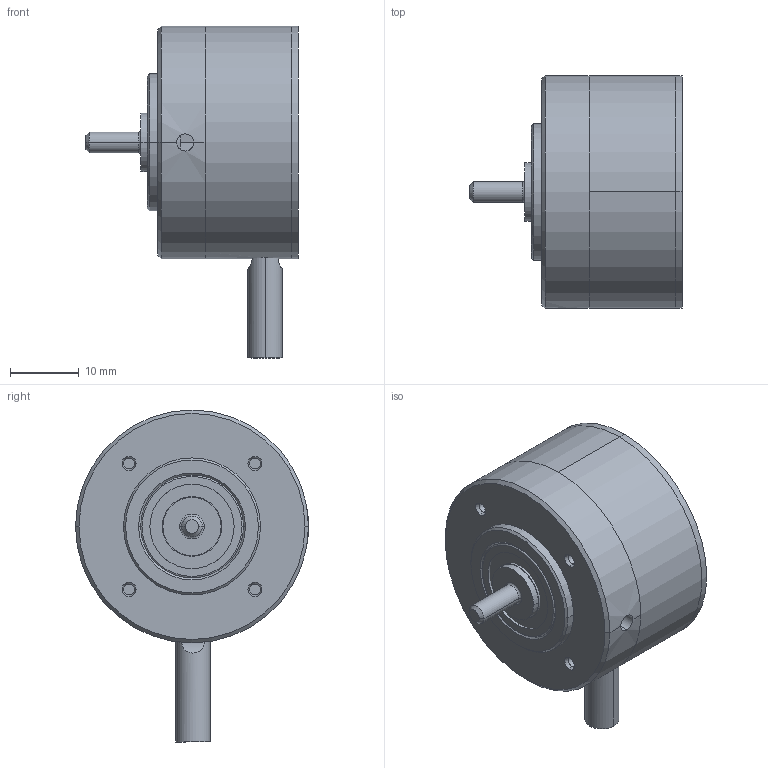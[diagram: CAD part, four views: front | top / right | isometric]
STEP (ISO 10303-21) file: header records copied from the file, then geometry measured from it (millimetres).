
FILE_DESCRIPTION (( 'STEP AP214' ), '1' );
FILE_NAME ('ﾋﾈﾐ-134.STEP', '2017-05-23T08:43:55', ( '' ), ( '' ), 'SwSTEP 2.0', 'SolidWorks 2013', '' );
FILE_SCHEMA (( 'AUTOMOTIVE_DESIGN' ));
Length unit declared in the file: millimetre
Products named in the file (1): ﾋﾈﾐ-134
Bounding box: 31 x 34 x 48.47 mm (x, y, z)
Surface area: 5559.1 mm2 (no closed solid volume)
Topology: 0 solids, 11 shells, 92 faces, 286 edges, 210 vertices
Faces by surface type: cylinder 38, plane 28, cone 22, torus 4
Entity records: 4513 total; most frequent: CARTESIAN_POINT 929, DIRECTION 574, ORIENTED_EDGE 446, EDGE_CURVE 286, AXIS2_PLACEMENT_3D 247, VERTEX_POINT 210, CIRCLE 154, EDGE_LOOP 111
